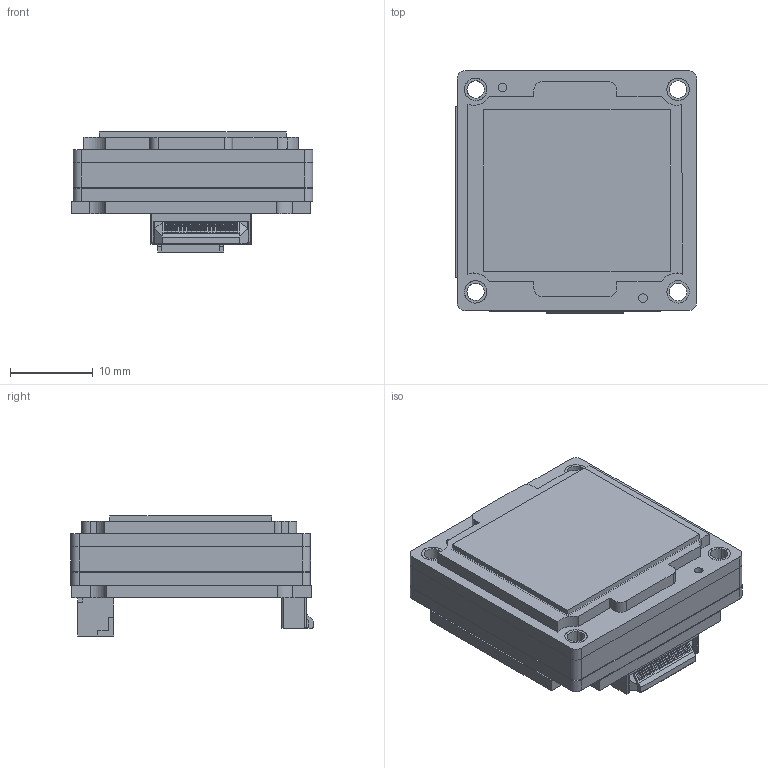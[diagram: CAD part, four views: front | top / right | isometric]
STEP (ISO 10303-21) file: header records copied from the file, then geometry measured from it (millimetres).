
FILE_DESCRIPTION (( 'STEP AP203' ), '1' );
FILE_NAME ('BFS-U3-88S6M(C)-BD2.STEP', '2020-04-27T18:59:36', ( 'FLIR IT' ), ( 'FLIR SYSTEMS' ), 'SwSTEP 2.0', 'SolidWorks 2018', '' );
FILE_SCHEMA (( 'CONFIG_CONTROL_DESIGN' ));
Length unit declared in the file: millimetre
Products named in the file (1): BFS-U3-88S6M(C)-BD2
Bounding box: 29.21 x 29.3 x 14.52 mm (x, y, z)
Volume: 8682 mm3; surface area: 12355.4 mm2
Topology: 13 solids, 13 shells, 1108 faces, 3045 edges, 2012 vertices
Faces by surface type: plane 874, cylinder 226, torus 4, bspline 4
Entity records: 35577 total; most frequent: CARTESIAN_POINT 6962, ORIENTED_EDGE 6090, DIRECTION 5617, EDGE_CURVE 3045, LINE 2567, VECTOR 2567, VERTEX_POINT 2012, AXIS2_PLACEMENT_3D 1525
